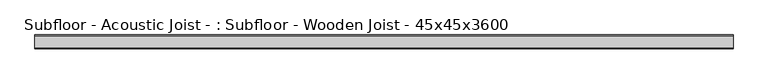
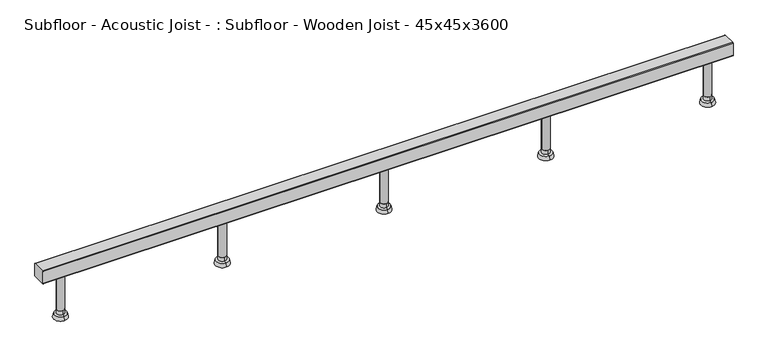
"""IFC4 building model written with IfcOpenShell, lengths in millimetres: beam geometry, Subfloor - Acoustic Joist - : Subfloor - Wooden Joist - 45x45x3600."""

from ifc_helpers import new_model, si_unit, point, frame, frame_2d, origin, place, context, project, spatial, polyline, circle_curve, trimmed, segment, composite_curve, outline, extrude, source, transform, mapped, element, save
from ifc_brep_helpers import plane_surface, cylinder_surface, revolved_surface, advanced_brep


def subfloor_acoustic_joist_subfloor_wooden_joist_45x45x3600_bff0b988(model_context):
    return source(origin(), model_context, "Body", "SolidModel", [
        extrude(outline(composite_curve([segment(trimmed(circle_curve(frame_2d((456.875, 0.0)), 12.5043167), [point((444.3706833, 0.0))], [point((469.3793167, 0.0))], False, "CARTESIAN"), True, "CONTINUOUS"), segment(trimmed(circle_curve(frame_2d((456.875, 0.0)), 12.5043167), [point((469.3793167, 0.0))], [point((444.3706833, 0.0))], False, "CARTESIAN"), True, "CONTINUOUS")], self_intersect=False)), frame((0.0, 0.0, -143.9999995), z_axis=(0.0, 0.0, 1.0), x_axis=(1.0, 0.0, 0.0)), (0.0, 0.0, 1.0), 121.4999995),
        advanced_brep(
        [(456.875, 0.0, -172.5), (456.875, -22.5, -172.5), (456.875, 22.5, -172.5), (456.875, 12.5043167, -143.9999995), (456.875, -12.5043167, -143.9999995), (456.875, 0.0, -143.9999995), (456.875, 19.5414562, -159.856555), (456.875, -19.5414562, -159.856555), (456.875, -12.5043167, -158.5618465), (456.875, 12.5043167, -158.5618465)],
        [
            (0, 1),
            (1, 2, circle_curve(frame((456.875, 0.0, -172.5), z_axis=(0.0, 0.0, -1.0), x_axis=(0.0, -1.0, 0.0)), 22.5)),
            (2, 0),
            (2, 1, circle_curve(frame((456.875, 0.0, -172.5), z_axis=(0.0, 0.0, -1.0), x_axis=(0.0, -1.0, 0.0)), 22.5)),
            (3, 4, circle_curve(frame((456.875, 0.0, -143.9999995), z_axis=(0.0, 0.0, 1.0), x_axis=(0.0, -1.0, 0.0)), 12.5043167)),
            (4, 5),
            (5, 3),
            (4, 3, circle_curve(frame((456.875, 0.0, -143.9999995), z_axis=(0.0, 0.0, 1.0), x_axis=(0.0, -1.0, 0.0)), 12.5043167)),
            (6, 7, circle_curve(frame((456.875, 0.0, -159.856555), z_axis=(0.0, 0.0, 1.0), x_axis=(0.0, -1.0, 0.0)), 19.5414562)),
            (7, 8),
            (8, 9, circle_curve(frame((456.875, 0.0, -158.5618465), z_axis=(0.0, 0.0, -1.0), x_axis=(0.0, -1.0, 0.0)), 12.5043167)),
            (9, 6),
            (7, 6, circle_curve(frame((456.875, 0.0, -159.856555), z_axis=(0.0, 0.0, 1.0), x_axis=(0.0, -1.0, 0.0)), 19.5414562)),
            (9, 8, circle_curve(frame((456.875, 0.0, -158.5618465), z_axis=(0.0, 0.0, -1.0), x_axis=(0.0, -1.0, 0.0)), 12.5043167)),
            (8, 4),
            (3, 9),
            (1, 7),
            (6, 2),
        ],
        [
            plane_surface(frame((456.875, 0.0, -172.5), z_axis=(0.0, 0.0, -1.0), x_axis=(0.0, -1.0, 0.0))),
            plane_surface(frame((456.875, 0.0, -143.9999995), z_axis=(0.0, 0.0, 1.0), x_axis=(0.0, -1.0, 0.0))),
            revolved_surface(polyline([(456.875, -12.5043167, -158.5618465), (456.875, -19.5414562, -159.856555)]), (456.875, 0.0, -178.1427452), (0.0, 0.0, -1.0)),
            cylinder_surface(frame((456.875, 0.0, -178.1427452), z_axis=(0.0, 0.0, -1.0), x_axis=(0.0, -1.0, 0.0)), 12.5043167),
            revolved_surface(polyline([(456.875, -19.5414562, -159.856555), (456.875, -22.5, -172.5)]), (456.875, 0.0, -178.1427452), (0.0, 0.0, -1.0)),
        ],
        [
            (0, [[1, 2, 3]]),
            (0, [[-3, 4, -1]]),
            (1, [[5, 6, 7]]),
            (1, [[8, -7, -6]]),
            (2, [[9, 10, 11, 12]]),
            (2, [[13, -12, 14, -10]]),
            (3, [[-11, 15, -5, 16]]),
            (3, [[-14, -16, -8, -15]]),
            (4, [[-2, 17, -9, 18]]),
            (4, [[-4, -18, -13, -17]]),
        ],
    ),
        extrude(outline(composite_curve([segment(trimmed(circle_curve(frame_2d((-68.75, 0.0)), 12.5043167), [point((-81.2543167, 0.0))], [point((-56.2456833, 0.0))], False, "CARTESIAN"), True, "CONTINUOUS"), segment(trimmed(circle_curve(frame_2d((-68.75, 0.0)), 12.5043167), [point((-56.2456833, 0.0))], [point((-81.2543167, 0.0))], False, "CARTESIAN"), True, "CONTINUOUS")], self_intersect=False)), frame((0.0, 0.0, -143.9999995), z_axis=(0.0, 0.0, 1.0), x_axis=(1.0, 0.0, 0.0)), (0.0, 0.0, 1.0), 121.4999995),
        advanced_brep(
        [(-68.75, 0.0, -172.5), (-68.75, -22.5, -172.5), (-68.75, 22.5, -172.5), (-68.75, 12.5043167, -143.9999995), (-68.75, -12.5043167, -143.9999995), (-68.75, 0.0, -143.9999995), (-68.75, 19.5414562, -159.856555), (-68.75, -19.5414562, -159.856555), (-68.75, -12.5043167, -158.5618465), (-68.75, 12.5043167, -158.5618465)],
        [
            (0, 1),
            (1, 2, circle_curve(frame((-68.75, 0.0, -172.5), z_axis=(0.0, 0.0, -1.0), x_axis=(0.0, -1.0, 0.0)), 22.5)),
            (2, 0),
            (2, 1, circle_curve(frame((-68.75, 0.0, -172.5), z_axis=(0.0, 0.0, -1.0), x_axis=(0.0, -1.0, 0.0)), 22.5)),
            (3, 4, circle_curve(frame((-68.75, 0.0, -143.9999995), z_axis=(0.0, 0.0, 1.0), x_axis=(0.0, -1.0, 0.0)), 12.5043167)),
            (4, 5),
            (5, 3),
            (4, 3, circle_curve(frame((-68.75, 0.0, -143.9999995), z_axis=(0.0, 0.0, 1.0), x_axis=(0.0, -1.0, 0.0)), 12.5043167)),
            (6, 7, circle_curve(frame((-68.75, 0.0, -159.856555), z_axis=(0.0, 0.0, 1.0), x_axis=(0.0, -1.0, 0.0)), 19.5414562)),
            (7, 8),
            (8, 9, circle_curve(frame((-68.75, 0.0, -158.5618465), z_axis=(0.0, 0.0, -1.0), x_axis=(0.0, -1.0, 0.0)), 12.5043167)),
            (9, 6),
            (7, 6, circle_curve(frame((-68.75, 0.0, -159.856555), z_axis=(0.0, 0.0, 1.0), x_axis=(0.0, -1.0, 0.0)), 19.5414562)),
            (9, 8, circle_curve(frame((-68.75, 0.0, -158.5618465), z_axis=(0.0, 0.0, -1.0), x_axis=(0.0, -1.0, 0.0)), 12.5043167)),
            (8, 4),
            (3, 9),
            (1, 7),
            (6, 2),
        ],
        [
            plane_surface(frame((-68.75, 0.0, -172.5), z_axis=(0.0, 0.0, -1.0), x_axis=(0.0, -1.0, 0.0))),
            plane_surface(frame((-68.75, 0.0, -143.9999995), z_axis=(0.0, 0.0, 1.0), x_axis=(0.0, -1.0, 0.0))),
            revolved_surface(polyline([(-68.75, -12.5043167, -158.5618465), (-68.75, -19.5414562, -159.856555)]), (-68.75, 0.0, -178.1427452), (0.0, 0.0, -1.0)),
            cylinder_surface(frame((-68.75, 0.0, -178.1427452), z_axis=(0.0, 0.0, -1.0), x_axis=(0.0, -1.0, 0.0)), 12.5043167),
            revolved_surface(polyline([(-68.75, -19.5414562, -159.856555), (-68.75, -22.5, -172.5)]), (-68.75, 0.0, -178.1427452), (0.0, 0.0, -1.0)),
        ],
        [
            (0, [[1, 2, 3]]),
            (0, [[-3, 4, -1]]),
            (1, [[5, 6, 7]]),
            (1, [[8, -7, -6]]),
            (2, [[9, 10, 11, 12]]),
            (2, [[13, -12, 14, -10]]),
            (3, [[-11, 15, -5, 16]]),
            (3, [[-14, -16, -8, -15]]),
            (4, [[-2, 17, -9, 18]]),
            (4, [[-4, -18, -13, -17]]),
        ],
    ),
        extrude(outline(composite_curve([segment(trimmed(circle_curve(frame_2d((-594.375, 0.0)), 12.5043167), [point((-606.8793167, 0.0))], [point((-581.8706833, 0.0))], False, "CARTESIAN"), True, "CONTINUOUS"), segment(trimmed(circle_curve(frame_2d((-594.375, 0.0)), 12.5043167), [point((-581.8706833, 0.0))], [point((-606.8793167, 0.0))], False, "CARTESIAN"), True, "CONTINUOUS")], self_intersect=False)), frame((0.0, 0.0, -143.9999995), z_axis=(0.0, 0.0, 1.0), x_axis=(1.0, 0.0, 0.0)), (0.0, 0.0, 1.0), 121.4999995),
        advanced_brep(
        [(-594.375, 0.0, -172.5), (-594.375, -22.5, -172.5), (-594.375, 22.5, -172.5), (-594.375, 12.5043167, -143.9999995), (-594.375, -12.5043167, -143.9999995), (-594.375, 0.0, -143.9999995), (-594.375, 19.5414562, -159.856555), (-594.375, -19.5414562, -159.856555), (-594.375, -12.5043167, -158.5618465), (-594.375, 12.5043167, -158.5618465)],
        [
            (0, 1),
            (1, 2, circle_curve(frame((-594.375, 0.0, -172.5), z_axis=(0.0, 0.0, -1.0), x_axis=(0.0, -1.0, 0.0)), 22.5)),
            (2, 0),
            (2, 1, circle_curve(frame((-594.375, 0.0, -172.5), z_axis=(0.0, 0.0, -1.0), x_axis=(0.0, -1.0, 0.0)), 22.5)),
            (3, 4, circle_curve(frame((-594.375, 0.0, -143.9999995), z_axis=(0.0, 0.0, 1.0), x_axis=(0.0, -1.0, 0.0)), 12.5043167)),
            (4, 5),
            (5, 3),
            (4, 3, circle_curve(frame((-594.375, 0.0, -143.9999995), z_axis=(0.0, 0.0, 1.0), x_axis=(0.0, -1.0, 0.0)), 12.5043167)),
            (6, 7, circle_curve(frame((-594.375, 0.0, -159.856555), z_axis=(0.0, 0.0, 1.0), x_axis=(0.0, -1.0, 0.0)), 19.5414562)),
            (7, 8),
            (8, 9, circle_curve(frame((-594.375, 0.0, -158.5618465), z_axis=(0.0, 0.0, -1.0), x_axis=(0.0, -1.0, 0.0)), 12.5043167)),
            (9, 6),
            (7, 6, circle_curve(frame((-594.375, 0.0, -159.856555), z_axis=(0.0, 0.0, 1.0), x_axis=(0.0, -1.0, 0.0)), 19.5414562)),
            (9, 8, circle_curve(frame((-594.375, 0.0, -158.5618465), z_axis=(0.0, 0.0, -1.0), x_axis=(0.0, -1.0, 0.0)), 12.5043167)),
            (8, 4),
            (3, 9),
            (1, 7),
            (6, 2),
        ],
        [
            plane_surface(frame((-594.375, 0.0, -172.5), z_axis=(0.0, 0.0, -1.0), x_axis=(0.0, -1.0, 0.0))),
            plane_surface(frame((-594.375, 0.0, -143.9999995), z_axis=(0.0, 0.0, 1.0), x_axis=(0.0, -1.0, 0.0))),
            revolved_surface(polyline([(-594.375, -12.5043167, -158.5618465), (-594.375, -19.5414562, -159.856555)]), (-594.375, 0.0, -178.1427452), (0.0, 0.0, -1.0)),
            cylinder_surface(frame((-594.375, 0.0, -178.1427452), z_axis=(0.0, 0.0, -1.0), x_axis=(0.0, -1.0, 0.0)), 12.5043167),
            revolved_surface(polyline([(-594.375, -19.5414562, -159.856555), (-594.375, -22.5, -172.5)]), (-594.375, 0.0, -178.1427452), (0.0, 0.0, -1.0)),
        ],
        [
            (0, [[1, 2, 3]]),
            (0, [[-3, 4, -1]]),
            (1, [[5, 6, 7]]),
            (1, [[8, -7, -6]]),
            (2, [[9, 10, 11, 12]]),
            (2, [[13, -12, 14, -10]]),
            (3, [[-11, 15, -5, 16]]),
            (3, [[-14, -16, -8, -15]]),
            (4, [[-2, 17, -9, 18]]),
            (4, [[-4, -18, -13, -17]]),
        ],
    ),
        extrude(outline(composite_curve([segment(trimmed(circle_curve(frame_2d((982.5, 0.0)), 12.5043167), [point((969.9956833, 0.0))], [point((995.0043167, 0.0))], False, "CARTESIAN"), True, "CONTINUOUS"), segment(trimmed(circle_curve(frame_2d((982.5, 0.0)), 12.5043167), [point((995.0043167, 0.0))], [point((969.9956833, 0.0))], False, "CARTESIAN"), True, "CONTINUOUS")], self_intersect=False)), frame((0.0, 0.0, -143.9999995), z_axis=(0.0, 0.0, 1.0), x_axis=(1.0, 0.0, 0.0)), (0.0, 0.0, 1.0), 121.4999995),
        advanced_brep(
        [(982.5, 0.0, -172.5), (982.5, -22.5, -172.5), (982.5, 22.5, -172.5), (982.5, 12.5043167, -143.9999995), (982.5, -12.5043167, -143.9999995), (982.5, 0.0, -143.9999995), (982.5, 19.5414562, -159.856555), (982.5, -19.5414562, -159.856555), (982.5, -12.5043167, -158.5618465), (982.5, 12.5043167, -158.5618465)],
        [
            (0, 1),
            (1, 2, circle_curve(frame((982.5, 0.0, -172.5), z_axis=(0.0, 0.0, -1.0), x_axis=(0.0, -1.0, 0.0)), 22.5)),
            (2, 0),
            (2, 1, circle_curve(frame((982.5, 0.0, -172.5), z_axis=(0.0, 0.0, -1.0), x_axis=(0.0, -1.0, 0.0)), 22.5)),
            (3, 4, circle_curve(frame((982.5, 0.0, -143.9999995), z_axis=(0.0, 0.0, 1.0), x_axis=(0.0, -1.0, 0.0)), 12.5043167)),
            (4, 5),
            (5, 3),
            (4, 3, circle_curve(frame((982.5, 0.0, -143.9999995), z_axis=(0.0, 0.0, 1.0), x_axis=(0.0, -1.0, 0.0)), 12.5043167)),
            (6, 7, circle_curve(frame((982.5, 0.0, -159.856555), z_axis=(0.0, 0.0, 1.0), x_axis=(0.0, -1.0, 0.0)), 19.5414562)),
            (7, 8),
            (8, 9, circle_curve(frame((982.5, 0.0, -158.5618465), z_axis=(0.0, 0.0, -1.0), x_axis=(0.0, -1.0, 0.0)), 12.5043167)),
            (9, 6),
            (7, 6, circle_curve(frame((982.5, 0.0, -159.856555), z_axis=(0.0, 0.0, 1.0), x_axis=(0.0, -1.0, 0.0)), 19.5414562)),
            (9, 8, circle_curve(frame((982.5, 0.0, -158.5618465), z_axis=(0.0, 0.0, -1.0), x_axis=(0.0, -1.0, 0.0)), 12.5043167)),
            (8, 4),
            (3, 9),
            (1, 7),
            (6, 2),
        ],
        [
            plane_surface(frame((982.5, 0.0, -172.5), z_axis=(0.0, 0.0, -1.0), x_axis=(0.0, -1.0, 0.0))),
            plane_surface(frame((982.5, 0.0, -143.9999995), z_axis=(0.0, 0.0, 1.0), x_axis=(0.0, -1.0, 0.0))),
            revolved_surface(polyline([(982.5, -12.5043167, -158.5618465), (982.5, -19.5414562, -159.856555)]), (982.5, 0.0, -178.1427452), (0.0, 0.0, -1.0)),
            cylinder_surface(frame((982.5, 0.0, -178.1427452), z_axis=(0.0, 0.0, -1.0), x_axis=(0.0, -1.0, 0.0)), 12.5043167),
            revolved_surface(polyline([(982.5, -19.5414562, -159.856555), (982.5, -22.5, -172.5)]), (982.5, 0.0, -178.1427452), (0.0, 0.0, -1.0)),
        ],
        [
            (0, [[1, 2, 3]]),
            (0, [[-3, 4, -1]]),
            (1, [[5, 6, 7]]),
            (1, [[8, -7, -6]]),
            (2, [[9, 10, 11, 12]]),
            (2, [[13, -12, 14, -10]]),
            (3, [[-11, 15, -5, 16]]),
            (3, [[-14, -16, -8, -15]]),
            (4, [[-2, 17, -9, 18]]),
            (4, [[-4, -18, -13, -17]]),
        ],
    ),
        extrude(outline(composite_curve([segment(trimmed(circle_curve(frame_2d((-1120.0, 0.0)), 12.5043167), [point((-1132.5043167, 0.0))], [point((-1107.4956833, 0.0))], False, "CARTESIAN"), True, "CONTINUOUS"), segment(trimmed(circle_curve(frame_2d((-1120.0, 0.0)), 12.5043167), [point((-1107.4956833, 0.0))], [point((-1132.5043167, 0.0))], False, "CARTESIAN"), True, "CONTINUOUS")], self_intersect=False)), frame((0.0, 0.0, -143.9999995), z_axis=(0.0, 0.0, 1.0), x_axis=(1.0, 0.0, 0.0)), (0.0, 0.0, 1.0), 121.4999995),
        advanced_brep(
        [(-1120.0, 0.0, -172.5), (-1120.0, -22.5, -172.5), (-1120.0, 22.5, -172.5), (-1120.0, 12.5043167, -143.9999995), (-1120.0, -12.5043167, -143.9999995), (-1120.0, 0.0, -143.9999995), (-1120.0, 19.5414562, -159.856555), (-1120.0, -19.5414562, -159.856555), (-1120.0, -12.5043167, -158.5618465), (-1120.0, 12.5043167, -158.5618465)],
        [
            (0, 1),
            (1, 2, circle_curve(frame((-1120.0, 0.0, -172.5), z_axis=(0.0, 0.0, -1.0), x_axis=(0.0, -1.0, 0.0)), 22.5)),
            (2, 0),
            (2, 1, circle_curve(frame((-1120.0, 0.0, -172.5), z_axis=(0.0, 0.0, -1.0), x_axis=(0.0, -1.0, 0.0)), 22.5)),
            (3, 4, circle_curve(frame((-1120.0, 0.0, -143.9999995), z_axis=(0.0, 0.0, 1.0), x_axis=(0.0, -1.0, 0.0)), 12.5043167)),
            (4, 5),
            (5, 3),
            (4, 3, circle_curve(frame((-1120.0, 0.0, -143.9999995), z_axis=(0.0, 0.0, 1.0), x_axis=(0.0, -1.0, 0.0)), 12.5043167)),
            (6, 7, circle_curve(frame((-1120.0, 0.0, -159.856555), z_axis=(0.0, 0.0, 1.0), x_axis=(0.0, -1.0, 0.0)), 19.5414562)),
            (7, 8),
            (8, 9, circle_curve(frame((-1120.0, 0.0, -158.5618465), z_axis=(0.0, 0.0, -1.0), x_axis=(0.0, -1.0, 0.0)), 12.5043167)),
            (9, 6),
            (7, 6, circle_curve(frame((-1120.0, 0.0, -159.856555), z_axis=(0.0, 0.0, 1.0), x_axis=(0.0, -1.0, 0.0)), 19.5414562)),
            (9, 8, circle_curve(frame((-1120.0, 0.0, -158.5618465), z_axis=(0.0, 0.0, -1.0), x_axis=(0.0, -1.0, 0.0)), 12.5043167)),
            (8, 4),
            (3, 9),
            (1, 7),
            (6, 2),
        ],
        [
            plane_surface(frame((-1120.0, 0.0, -172.5), z_axis=(0.0, 0.0, -1.0), x_axis=(0.0, -1.0, 0.0))),
            plane_surface(frame((-1120.0, 0.0, -143.9999995), z_axis=(0.0, 0.0, 1.0), x_axis=(0.0, -1.0, 0.0))),
            revolved_surface(polyline([(-1120.0, -12.5043167, -158.5618465), (-1120.0, -19.5414562, -159.856555)]), (-1120.0, 0.0, -178.1427452), (0.0, 0.0, -1.0)),
            cylinder_surface(frame((-1120.0, 0.0, -178.1427452), z_axis=(0.0, 0.0, -1.0), x_axis=(0.0, -1.0, 0.0)), 12.5043167),
            revolved_surface(polyline([(-1120.0, -19.5414562, -159.856555), (-1120.0, -22.5, -172.5)]), (-1120.0, 0.0, -178.1427452), (0.0, 0.0, -1.0)),
        ],
        [
            (0, [[1, 2, 3]]),
            (0, [[-3, 4, -1]]),
            (1, [[5, 6, 7]]),
            (1, [[8, -7, -6]]),
            (2, [[9, 10, 11, 12]]),
            (2, [[13, -12, 14, -10]]),
            (3, [[-11, 15, -5, 16]]),
            (3, [[-14, -16, -8, -15]]),
            (4, [[-2, 17, -9, 18]]),
            (4, [[-4, -18, -13, -17]]),
        ],
    ),
        extrude(outline(composite_curve([segment(polyline([(-20.5, 22.5), (20.5, 22.5)]), True, "CONTINUOUS"), segment(trimmed(circle_curve(frame_2d((20.5, 20.5)), 2.0), [point((20.5, 22.5))], [point((22.5, 20.5))], False, "CARTESIAN"), True, "CONTINUOUS"), segment(polyline([(22.5, 20.5), (22.5, -20.5)]), True, "CONTINUOUS"), segment(trimmed(circle_curve(frame_2d((20.5, -20.5)), 2.0), [point((22.5, -20.5))], [point((20.5, -22.5))], False, "CARTESIAN"), True, "CONTINUOUS"), segment(polyline([(20.5, -22.5), (-20.5, -22.5)]), True, "CONTINUOUS"), segment(trimmed(circle_curve(frame_2d((-20.5, -20.5)), 2.0), [point((-20.5, -22.5))], [point((-22.5, -20.5))], False, "CARTESIAN"), True, "CONTINUOUS"), segment(polyline([(-22.5, -20.5), (-22.5, 20.5)]), True, "CONTINUOUS"), segment(trimmed(circle_curve(frame_2d((-20.5, 20.5)), 2.0), [point((-22.5, 20.5))], [point((-20.5, 22.5))], False, "CARTESIAN"), True, "CONTINUOUS")], self_intersect=False)), frame((-1190.0, 0.0, 0.0), z_axis=(1.0, 0.0, 0.0), x_axis=(0.0, 1.0, 0.0)), (0.0, 0.0, 1.0), 2242.5),
    ])


if __name__ == "__main__":
    model = new_model("IFC4")
    model_context = context("Model", 3, world=origin())
    ifc_project = project(units=[si_unit("LENGTHUNIT", "METRE", prefix="MILLI")], contexts=[model_context])
    site = spatial("IfcSite", under=ifc_project)
    building = spatial("IfcBuilding", under=site)
    placement = place(None, origin())
    subfloor_acoustic_joist_subfloor_wooden_joist_45x45x3600_shape = subfloor_acoustic_joist_subfloor_wooden_joist_45x45x3600_bff0b988(model_context)
    element("IfcBeam", 1, ObjectType="Subfloor - Acoustic Joist - : Subfloor - Wooden Joist - 45x45x3600", at=placement, inside=building, context=model_context, shape_type="MappedRepresentation", body=[
        mapped(subfloor_acoustic_joist_subfloor_wooden_joist_45x45x3600_shape, transform((0.0, 0.0, 0.0), x_axis=(1.0, 0.0, 0.0), y_axis=(0.0, 1.0, 0.0), z_axis=(0.0, 0.0, 1.0))),
    ])
    save(model, "model.ifc")
